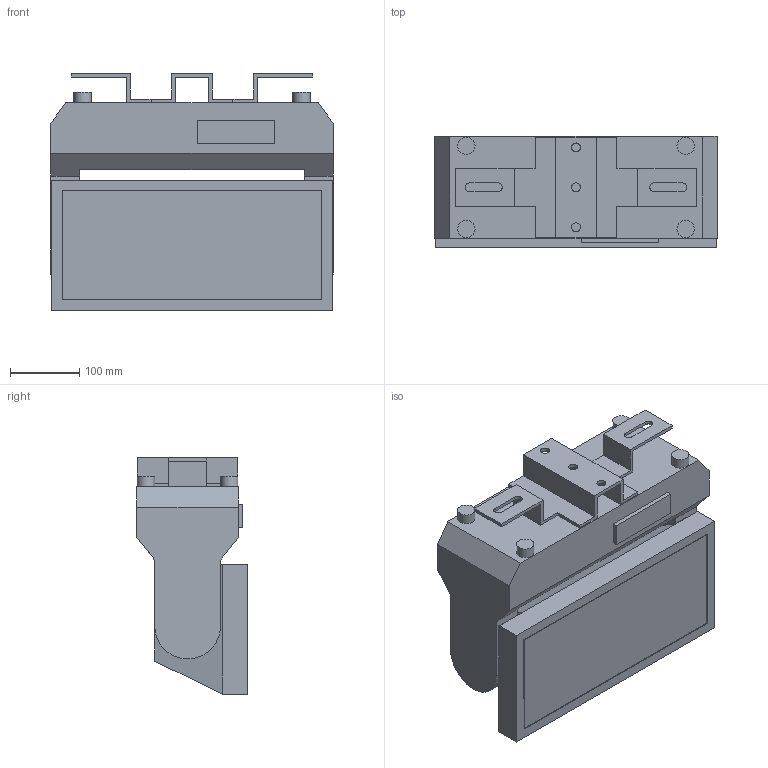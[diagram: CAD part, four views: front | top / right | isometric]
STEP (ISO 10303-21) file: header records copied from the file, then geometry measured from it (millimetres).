
FILE_DESCRIPTION(/* description */ (''),/* implementation_level */ '2;1');
FILE_NAME(/* name */ 'C:\Users\dgooch\Documents\!!CADENG\PRO\Color Strike M\Color Strike M_3D_CAD\Color Strike M_90.step',/* time_stamp */ '2022-07-19T15:40:49-04:00',/* author */ ('dgooch'),/* organization */ (''),/* preprocessor_version */ 'ST-DEVELOPER v19',/* originating_system */ 'Autodesk Inventor 2023',/* authorisation */ '');
FILE_SCHEMA (('AUTOMOTIVE_DESIGN { 1 0 10303 214 3 1 1 }'));
Length unit declared in the file: millimetre
Products named in the file (5): Color Strike M_0; Base (1); Head (1); Bracket (1); CH-CST2000IPC0002 (1)
Assembly tree (4 placements, depth 3):
  Color Strike M_0
    Base (1)
    Head (1)
    Bracket (1)
      CH-CST2000IPC0002 (1)
Bounding box: 407 x 159.7 x 341.45 mm (x, y, z)
Volume: 13652019.4 mm3; surface area: 646239.9 mm2
Topology: 3 solids, 3 shells, 97 faces, 243 edges, 162 vertices
Faces by surface type: plane 80, cylinder 17
Full cylindrical faces by diameter (mm): 13 x3, 25 x4, 54 x4
Entity records: 3089 total; most frequent: CARTESIAN_POINT 511, DIRECTION 489, ORIENTED_EDGE 486, EDGE_CURVE 243, LINE 209, VECTOR 209, VERTEX_POINT 162, AXIS2_PLACEMENT_3D 140
